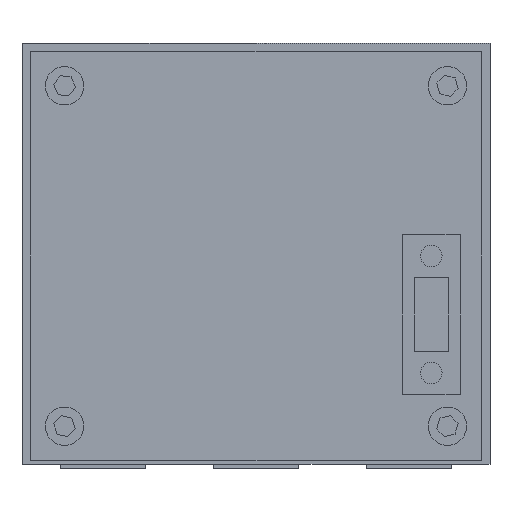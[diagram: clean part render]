
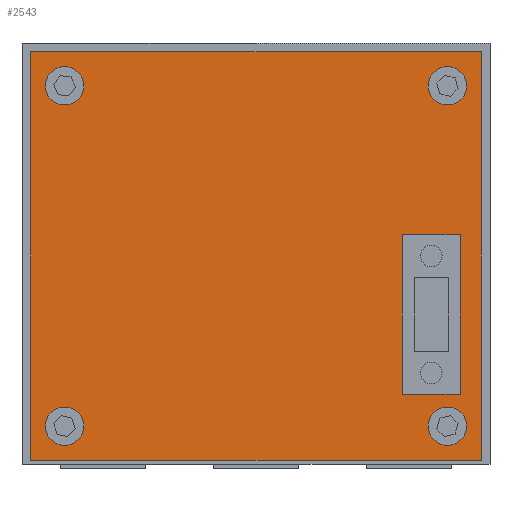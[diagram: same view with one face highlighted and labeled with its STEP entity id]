
A CAD part, front view. The second image highlights one B-rep face of the part: STEP entity #2543.
In plain terms, the highlighted planar face has unit normal (0, -1, 0).
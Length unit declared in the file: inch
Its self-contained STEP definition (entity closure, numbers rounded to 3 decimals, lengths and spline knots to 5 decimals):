
#146 = CIRCLE ( 'NONE', #374, 0.045 ) ;
#152 = CIRCLE ( 'NONE', #376, 0.045 ) ;
#158 = CIRCLE ( 'NONE', #378, 0.045 ) ;
#166 = CIRCLE ( 'NONE', #371, 0.045 ) ;
#281 = FACE_BOUND ( 'NONE', #704, .T. ) ;
#282 = FACE_BOUND ( 'NONE', #710, .T. ) ;
#289 = FACE_BOUND ( 'NONE', #709, .T. ) ;
#290 = FACE_BOUND ( 'NONE', #705, .T. ) ;
#292 = FACE_OUTER_BOUND ( 'NONE', #708, .T. ) ;
#294 = FACE_BOUND ( 'NONE', #755, .T. ) ;
#371 = AXIS2_PLACEMENT_3D ( 'NONE', #5959, #5970, #5971 ) ;
#374 = AXIS2_PLACEMENT_3D ( 'NONE', #5929, #5937, #5938 ) ;
#376 = AXIS2_PLACEMENT_3D ( 'NONE', #5939, #5947, #5948 ) ;
#378 = AXIS2_PLACEMENT_3D ( 'NONE', #5949, #5957, #5958 ) ;
#428 = AXIS2_PLACEMENT_3D ( 'NONE', #6161, #6183, #6185 ) ;
#704 = EDGE_LOOP ( 'NONE', ( #6372, #6375 ) ) ;
#705 = EDGE_LOOP ( 'NONE', ( #6377, #6379 ) ) ;
#708 = EDGE_LOOP ( 'NONE', ( #6381, #6383, #6386, #6388 ) ) ;
#709 = EDGE_LOOP ( 'NONE', ( #6396, #6398, #6400, #6402 ) ) ;
#710 = EDGE_LOOP ( 'NONE', ( #6393, #6394 ) ) ;
#755 = EDGE_LOOP ( 'NONE', ( #6390, #6391 ) ) ;
#1022 = VERTEX_POINT ( 'NONE', #1399 ) ;
#1023 = VERTEX_POINT ( 'NONE', #1397 ) ;
#1024 = VERTEX_POINT ( 'NONE', #1395 ) ;
#1025 = VERTEX_POINT ( 'NONE', #1393 ) ;
#1026 = VERTEX_POINT ( 'NONE', #1392 ) ;
#1027 = VERTEX_POINT ( 'NONE', #1391 ) ;
#1028 = VERTEX_POINT ( 'NONE', #1390 ) ;
#1029 = VERTEX_POINT ( 'NONE', #1389 ) ;
#1117 = VERTEX_POINT ( 'NONE', #4219 ) ;
#1118 = VERTEX_POINT ( 'NONE', #4220 ) ;
#1126 = VERTEX_POINT ( 'NONE', #4228 ) ;
#1127 = VERTEX_POINT ( 'NONE', #4229 ) ;
#1130 = VERTEX_POINT ( 'NONE', #4232 ) ;
#1131 = VERTEX_POINT ( 'NONE', #4233 ) ;
#1133 = VERTEX_POINT ( 'NONE', #4235 ) ;
#1138 = VERTEX_POINT ( 'NONE', #4240 ) ;
#1389 = CARTESIAN_POINT ( 'NONE',  ( 0.53, -0.55, 0.48 ) ) ;
#1390 = CARTESIAN_POINT ( 'NONE',  ( -0.53, -0.55, 0.48 ) ) ;
#1391 = CARTESIAN_POINT ( 'NONE',  ( -0.53, -0.55, -0.48 ) ) ;
#1392 = CARTESIAN_POINT ( 'NONE',  ( 0.53, -0.55, -0.48 ) ) ;
#1393 = CARTESIAN_POINT ( 'NONE',  ( 0.344, -0.55, -0.325 ) ) ;
#1395 = CARTESIAN_POINT ( 'NONE',  ( 0.48, -0.55, -0.325 ) ) ;
#1397 = CARTESIAN_POINT ( 'NONE',  ( 0.344, -0.55, 0.05 ) ) ;
#1399 = CARTESIAN_POINT ( 'NONE',  ( 0.48, -0.55, 0.05 ) ) ;
#1787 = EDGE_CURVE ( 'NONE', #1022, #1023, #8072, .T. ) ;
#1789 = EDGE_CURVE ( 'NONE', #1024, #1022, #8061, .T. ) ;
#1790 = EDGE_CURVE ( 'NONE', #1023, #1025, #8076, .T. ) ;
#1791 = EDGE_CURVE ( 'NONE', #1138, #1133, #8079, .T. ) ;
#1792 = EDGE_CURVE ( 'NONE', #1127, #1118, #8080, .T. ) ;
#1793 = EDGE_CURVE ( 'NONE', #1131, #1130, #8082, .T. ) ;
#1794 = EDGE_CURVE ( 'NONE', #1025, #1024, #8081, .T. ) ;
#1795 = EDGE_CURVE ( 'NONE', #1029, #1028, #8084, .T. ) ;
#1796 = EDGE_CURVE ( 'NONE', #1117, #1126, #8088, .T. ) ;
#1798 = EDGE_CURVE ( 'NONE', #1026, #1029, #8089, .T. ) ;
#1800 = EDGE_CURVE ( 'NONE', #1027, #1026, #8091, .T. ) ;
#1802 = EDGE_CURVE ( 'NONE', #1028, #1027, #8087, .T. ) ;
#1918 = EDGE_CURVE ( 'NONE', #1133, #1138, #146, .T. ) ;
#1922 = EDGE_CURVE ( 'NONE', #1130, #1131, #152, .T. ) ;
#1926 = EDGE_CURVE ( 'NONE', #1118, #1127, #158, .T. ) ;
#1931 = EDGE_CURVE ( 'NONE', #1126, #1117, #166, .T. ) ;
#2183 = AXIS2_PLACEMENT_3D ( 'NONE', #5622, #5623, #5624 ) ;
#2185 = AXIS2_PLACEMENT_3D ( 'NONE', #5606, #5620, #5621 ) ;
#2186 = AXIS2_PLACEMENT_3D ( 'NONE', #5625, #5626, #5627 ) ;
#2188 = AXIS2_PLACEMENT_3D ( 'NONE', #5633, #5634, #5635 ) ;
#2543 = ADVANCED_FACE ( 'NONE', ( #281, #290, #292, #294, #282, #289 ), #6163, .T. ) ;
#4219 = CARTESIAN_POINT ( 'NONE',  ( -0.45, -0.55, -0.355 ) ) ;
#4220 = CARTESIAN_POINT ( 'NONE',  ( 0.45, -0.55, -0.445 ) ) ;
#4228 = CARTESIAN_POINT ( 'NONE',  ( -0.45, -0.55, -0.445 ) ) ;
#4229 = CARTESIAN_POINT ( 'NONE',  ( 0.45, -0.55, -0.355 ) ) ;
#4232 = CARTESIAN_POINT ( 'NONE',  ( 0.45, -0.55, 0.355 ) ) ;
#4233 = CARTESIAN_POINT ( 'NONE',  ( 0.45, -0.55, 0.445 ) ) ;
#4235 = CARTESIAN_POINT ( 'NONE',  ( -0.45, -0.55, 0.355 ) ) ;
#4240 = CARTESIAN_POINT ( 'NONE',  ( -0.45, -0.55, 0.445 ) ) ;
#5606 = CARTESIAN_POINT ( 'NONE',  ( -0.45, -0.55, 0.4 ) ) ;
#5611 = CARTESIAN_POINT ( 'NONE',  ( 0.344, -0.55, 0.05 ) ) ;
#5612 = DIRECTION ( 'NONE',  ( -1., 0., 0. ) ) ;
#5613 = CARTESIAN_POINT ( 'NONE',  ( 0.344, -0.55, -0.325 ) ) ;
#5616 = CARTESIAN_POINT ( 'NONE',  ( 0.48, -0.55, 0.05 ) ) ;
#5617 = DIRECTION ( 'NONE',  ( 0., 0., 1. ) ) ;
#5618 = CARTESIAN_POINT ( 'NONE',  ( 0.344, -0.55, 0.05 ) ) ;
#5619 = DIRECTION ( 'NONE',  ( 0., 0., -1. ) ) ;
#5620 = DIRECTION ( 'NONE',  ( 0., -1., 0. ) ) ;
#5621 = DIRECTION ( 'NONE',  ( 0., 0., -1. ) ) ;
#5622 = CARTESIAN_POINT ( 'NONE',  ( 0.45, -0.55, -0.4 ) ) ;
#5623 = DIRECTION ( 'NONE',  ( 0., -1., 0. ) ) ;
#5624 = DIRECTION ( 'NONE',  ( 0., 0., -1. ) ) ;
#5625 = CARTESIAN_POINT ( 'NONE',  ( 0.45, -0.55, 0.4 ) ) ;
#5626 = DIRECTION ( 'NONE',  ( 0., -1., 0. ) ) ;
#5627 = DIRECTION ( 'NONE',  ( 0., 0., -1. ) ) ;
#5628 = CARTESIAN_POINT ( 'NONE',  ( 0.53, -0.55, -0.48 ) ) ;
#5629 = DIRECTION ( 'NONE',  ( 1., 0., 0. ) ) ;
#5630 = CARTESIAN_POINT ( 'NONE',  ( -0.53, -0.55, -0.48 ) ) ;
#5631 = CARTESIAN_POINT ( 'NONE',  ( 0.53, -0.55, 0.48 ) ) ;
#5632 = DIRECTION ( 'NONE',  ( -1., 0., 0. ) ) ;
#5633 = CARTESIAN_POINT ( 'NONE',  ( -0.45, -0.55, -0.4 ) ) ;
#5634 = DIRECTION ( 'NONE',  ( 0., -1., 0. ) ) ;
#5635 = DIRECTION ( 'NONE',  ( 0., 0., -1. ) ) ;
#5640 = DIRECTION ( 'NONE',  ( 0., 0., 1. ) ) ;
#5643 = CARTESIAN_POINT ( 'NONE',  ( -0.53, -0.55, 0.48 ) ) ;
#5644 = DIRECTION ( 'NONE',  ( 1., 0., 0. ) ) ;
#5648 = DIRECTION ( 'NONE',  ( 0., 0., -1. ) ) ;
#5929 = CARTESIAN_POINT ( 'NONE',  ( -0.45, -0.55, 0.4 ) ) ;
#5937 = DIRECTION ( 'NONE',  ( 0., -1., 0. ) ) ;
#5938 = DIRECTION ( 'NONE',  ( 0., 0., -1. ) ) ;
#5939 = CARTESIAN_POINT ( 'NONE',  ( 0.45, -0.55, 0.4 ) ) ;
#5947 = DIRECTION ( 'NONE',  ( 0., -1., 0. ) ) ;
#5948 = DIRECTION ( 'NONE',  ( 0., 0., -1. ) ) ;
#5949 = CARTESIAN_POINT ( 'NONE',  ( 0.45, -0.55, -0.4 ) ) ;
#5957 = DIRECTION ( 'NONE',  ( 0., -1., 0. ) ) ;
#5958 = DIRECTION ( 'NONE',  ( 0., 0., -1. ) ) ;
#5959 = CARTESIAN_POINT ( 'NONE',  ( -0.45, -0.55, -0.4 ) ) ;
#5970 = DIRECTION ( 'NONE',  ( 0., -1., 0. ) ) ;
#5971 = DIRECTION ( 'NONE',  ( 0., 0., -1. ) ) ;
#6161 = CARTESIAN_POINT ( 'NONE',  ( -0.53, -0.55, 0.48 ) ) ;
#6163 = PLANE ( 'NONE',  #428 ) ;
#6183 = DIRECTION ( 'NONE',  ( 0., -1., 0. ) ) ;
#6185 = DIRECTION ( 'NONE',  ( 0., 0., -1. ) ) ;
#6372 = ORIENTED_EDGE ( 'NONE', *, *, #1796, .F. ) ;
#6375 = ORIENTED_EDGE ( 'NONE', *, *, #1931, .F. ) ;
#6377 = ORIENTED_EDGE ( 'NONE', *, *, #1793, .F. ) ;
#6379 = ORIENTED_EDGE ( 'NONE', *, *, #1922, .F. ) ;
#6381 = ORIENTED_EDGE ( 'NONE', *, *, #1795, .T. ) ;
#6383 = ORIENTED_EDGE ( 'NONE', *, *, #1802, .T. ) ;
#6386 = ORIENTED_EDGE ( 'NONE', *, *, #1800, .T. ) ;
#6388 = ORIENTED_EDGE ( 'NONE', *, *, #1798, .T. ) ;
#6390 = ORIENTED_EDGE ( 'NONE', *, *, #1791, .F. ) ;
#6391 = ORIENTED_EDGE ( 'NONE', *, *, #1918, .F. ) ;
#6393 = ORIENTED_EDGE ( 'NONE', *, *, #1792, .F. ) ;
#6394 = ORIENTED_EDGE ( 'NONE', *, *, #1926, .F. ) ;
#6396 = ORIENTED_EDGE ( 'NONE', *, *, #1794, .F. ) ;
#6398 = ORIENTED_EDGE ( 'NONE', *, *, #1790, .F. ) ;
#6400 = ORIENTED_EDGE ( 'NONE', *, *, #1787, .F. ) ;
#6402 = ORIENTED_EDGE ( 'NONE', *, *, #1789, .F. ) ;
#8061 = LINE ( 'NONE', #5616, #8070 ) ;
#8070 = VECTOR ( 'NONE', #5617, 39.37008 ) ;
#8072 = LINE ( 'NONE', #5611, #8073 ) ;
#8073 = VECTOR ( 'NONE', #5612, 39.37008 ) ;
#8074 = VECTOR ( 'NONE', #5644, 39.37008 ) ;
#8076 = LINE ( 'NONE', #5618, #8077 ) ;
#8077 = VECTOR ( 'NONE', #5619, 39.37008 ) ;
#8079 = CIRCLE ( 'NONE', #2185, 0.045 ) ;
#8080 = CIRCLE ( 'NONE', #2183, 0.045 ) ;
#8081 = LINE ( 'NONE', #5613, #8083 ) ;
#8082 = CIRCLE ( 'NONE', #2186, 0.045 ) ;
#8083 = VECTOR ( 'NONE', #5629, 39.37008 ) ;
#8084 = LINE ( 'NONE', #5631, #8085 ) ;
#8085 = VECTOR ( 'NONE', #5632, 39.37008 ) ;
#8086 = VECTOR ( 'NONE', #5640, 39.37008 ) ;
#8087 = LINE ( 'NONE', #5643, #8095 ) ;
#8088 = CIRCLE ( 'NONE', #2188, 0.045 ) ;
#8089 = LINE ( 'NONE', #5628, #8086 ) ;
#8091 = LINE ( 'NONE', #5630, #8074 ) ;
#8095 = VECTOR ( 'NONE', #5648, 39.37008 ) ;
